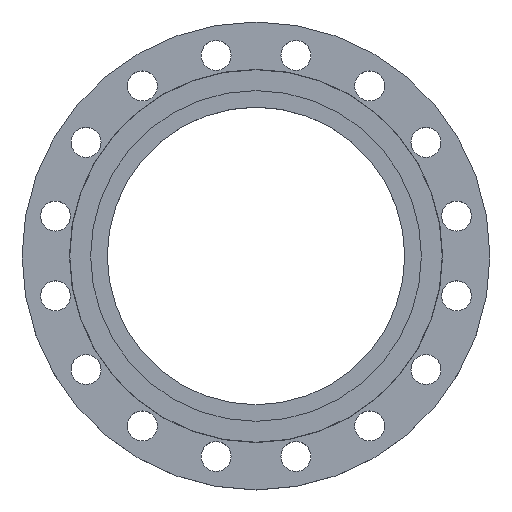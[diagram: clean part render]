
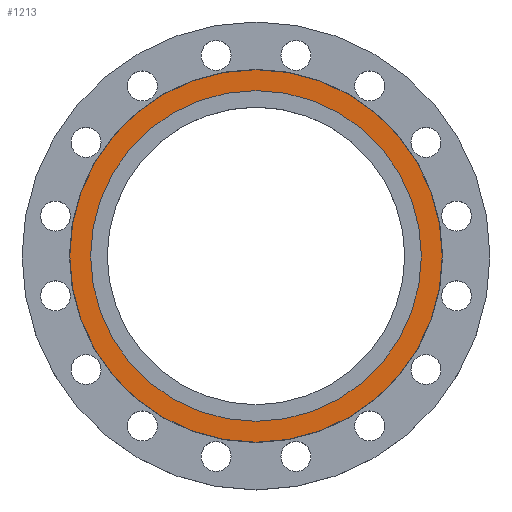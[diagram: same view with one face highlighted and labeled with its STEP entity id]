
A CAD part, top view. The second image highlights one B-rep face of the part: STEP entity #1213.
In plain terms, the highlighted planar face has unit normal (0, 0, 1).
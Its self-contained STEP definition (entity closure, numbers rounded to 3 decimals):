
#7 = VERTEX_POINT ( 'NONE', #1553 ) ;
#8 = EDGE_LOOP ( 'NONE', ( #527, #532 ) ) ;
#25 = VERTEX_POINT ( 'NONE', #1542 ) ;
#37 = VERTEX_POINT ( 'NONE', #1533 ) ;
#61 = EDGE_LOOP ( 'NONE', ( #587, #588 ) ) ;
#225 = EDGE_CURVE ( 'NONE', #25, #37, #966, .T. ) ;
#466 = VERTEX_POINT ( 'NONE', #1214 ) ;
#482 = DIRECTION ( 'NONE',  ( -1., 0., 0. ) ) ;
#483 = DIRECTION ( 'NONE',  ( 0., 0., -1. ) ) ;
#484 = CARTESIAN_POINT ( 'NONE',  ( 0., 0., 0. ) ) ;
#527 = ORIENTED_EDGE ( 'NONE', *, *, #994, .F. ) ;
#532 = ORIENTED_EDGE ( 'NONE', *, *, #1217, .F. ) ;
#562 = DIRECTION ( 'NONE',  ( -1., 0., 0. ) ) ;
#566 = DIRECTION ( 'NONE',  ( 0., 0., -1. ) ) ;
#567 = CARTESIAN_POINT ( 'NONE',  ( 0., 0., 0. ) ) ;
#569 = DIRECTION ( 'NONE',  ( 1., 0., 0. ) ) ;
#573 = DIRECTION ( 'NONE',  ( 0., 0., 1. ) ) ;
#575 = CARTESIAN_POINT ( 'NONE',  ( 0., 0., 0. ) ) ;
#576 = PLANE ( 'NONE',  #1406 ) ;
#578 = FACE_BOUND ( 'NONE', #61, .T. ) ;
#581 = FACE_OUTER_BOUND ( 'NONE', #8, .T. ) ;
#587 = ORIENTED_EDGE ( 'NONE', *, *, #1309, .T. ) ;
#588 = ORIENTED_EDGE ( 'NONE', *, *, #225, .T. ) ;
#669 = AXIS2_PLACEMENT_3D ( 'NONE', #484, #483, #482 ) ;
#763 = DIRECTION ( 'NONE',  ( -1., 0., 0. ) ) ;
#765 = DIRECTION ( 'NONE',  ( 0., 0., -1. ) ) ;
#767 = CARTESIAN_POINT ( 'NONE',  ( 0., 0., 0. ) ) ;
#955 = AXIS2_PLACEMENT_3D ( 'NONE', #1412, #1411, #1409 ) ;
#966 = CIRCLE ( 'NONE', #955, 182. ) ;
#994 = EDGE_CURVE ( 'NONE', #7, #466, #1147, .T. ) ;
#1143 = AXIS2_PLACEMENT_3D ( 'NONE', #767, #765, #763 ) ;
#1147 = CIRCLE ( 'NONE', #1143, 205. ) ;
#1213 = ADVANCED_FACE ( 'NONE', ( #581, #578 ), #576, .T. ) ;
#1214 = CARTESIAN_POINT ( 'NONE',  ( 205., 0., 0. ) ) ;
#1217 = EDGE_CURVE ( 'NONE', #466, #7, #1388, .T. ) ;
#1269 = CIRCLE ( 'NONE', #669, 182. ) ;
#1309 = EDGE_CURVE ( 'NONE', #37, #25, #1269, .T. ) ;
#1388 = CIRCLE ( 'NONE', #1405, 205. ) ;
#1405 = AXIS2_PLACEMENT_3D ( 'NONE', #567, #566, #562 ) ;
#1406 = AXIS2_PLACEMENT_3D ( 'NONE', #575, #573, #569 ) ;
#1409 = DIRECTION ( 'NONE',  ( -1., 0., 0. ) ) ;
#1411 = DIRECTION ( 'NONE',  ( 0., 0., -1. ) ) ;
#1412 = CARTESIAN_POINT ( 'NONE',  ( 0., 0., 0. ) ) ;
#1533 = CARTESIAN_POINT ( 'NONE',  ( -182., 0., 0. ) ) ;
#1542 = CARTESIAN_POINT ( 'NONE',  ( 182., 0., 0. ) ) ;
#1553 = CARTESIAN_POINT ( 'NONE',  ( -205., 0., 0. ) ) ;
